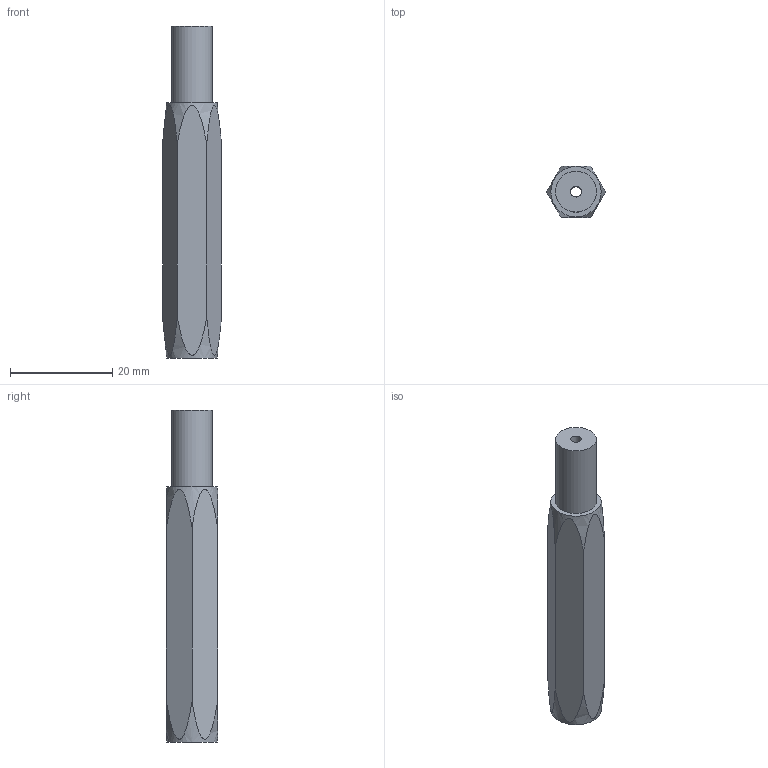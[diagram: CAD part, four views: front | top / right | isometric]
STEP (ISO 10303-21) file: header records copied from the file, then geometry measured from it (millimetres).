
FILE_DESCRIPTION((''),'2;1');
FILE_NAME('I:\Gleitlager\Konstruktion\robolink\Vorserie\Simpel für STEP\RL-SD02-SC02.stp','2011-05-18T14:58:26',('MRaak'),(''),'Autodesk Inventor 2011','Autodesk Inventor 2011','');
FILE_SCHEMA(('AUTOMOTIVE_DESIGN { 1 0 10303 214 1 1 1 1 }'));
Length unit declared in the file: millimetre
Products named in the file (3): RL-SD02-SC02; Spanner AG-01 SMP; Spanner IG-01 SMP
Assembly tree (2 placements, depth 2):
  RL-SD02-SC02
    Spanner AG-01 SMP
    Spanner IG-01 SMP
Bounding box: 11.55 x 10 x 65 mm (x, y, z)
Volume: 3478.7 mm3; surface area: 4299.5 mm2
Topology: 2 solids, 2 shells, 19 faces, 39 edges, 26 vertices
Faces by surface type: plane 12, cylinder 5, bspline 2
Full cylindrical faces by diameter (mm): 2.1 x2, 4.8 x1, 8 x2
Entity records: 875 total; most frequent: CARTESIAN_POINT 436, DIRECTION 74, ORIENTED_EDGE 60, AXIS2_PLACEMENT_3D 34, EDGE_LOOP 32, EDGE_CURVE 30, VERTEX_POINT 24, FACE_OUTER_BOUND 19
